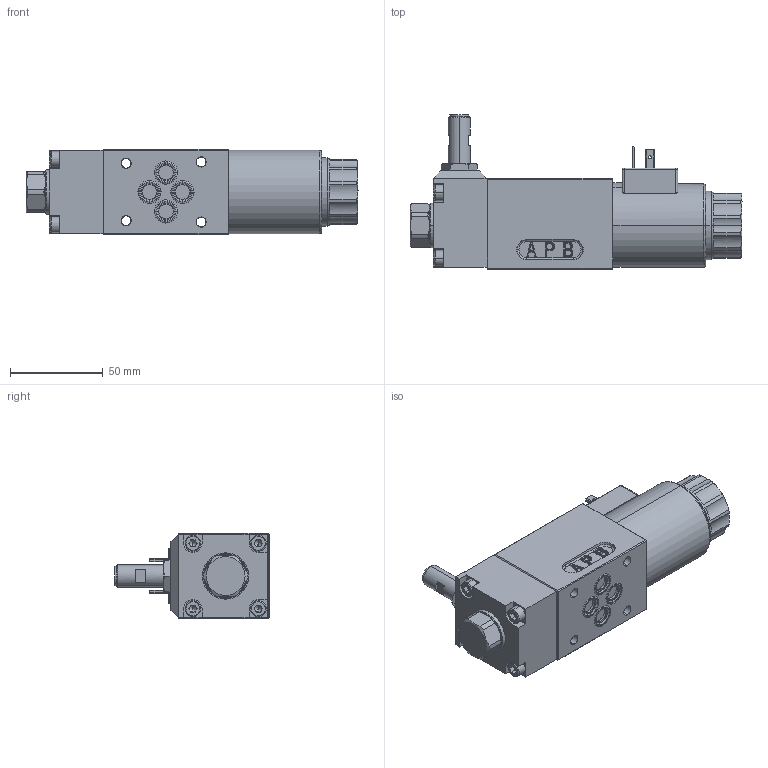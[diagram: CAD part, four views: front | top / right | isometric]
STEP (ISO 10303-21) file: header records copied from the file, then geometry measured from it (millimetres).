
FILE_DESCRIPTION (( 'STEP AP214' ), '1' );
FILE_NAME ('WDMFA06-4_2-Bside-Z482_Z603_Z680.STEP', '2019-08-12T13:55:18', ( '' ), ( '' ), 'SwSTEP 2.0', 'SolidWorks 2018', '' );
FILE_SCHEMA (( 'AUTOMOTIVE_DESIGN' ));
Length unit declared in the file: millimetre
Products named in the file (1): WDMFA06-4_2-Bside-Z482_Z603_Z680
Bounding box: 179.3 x 83.3 x 46 mm (x, y, z)
Volume: 326271.5 mm3; surface area: 49113.1 mm2
Topology: 10 solids, 18 shells, 1716 faces, 4611 edges, 2976 vertices
Faces by surface type: plane 814, cylinder 646, cone 97, bspline 89, torus 48, sphere 22
Entity records: 76140 total; most frequent: CARTESIAN_POINT 14292, ORIENTED_EDGE 9164, DIRECTION 8905, EDGE_CURVE 4582, AXIS2_PLACEMENT_3D 3192, VERTEX_POINT 2976, LINE 2521, VECTOR 2521
